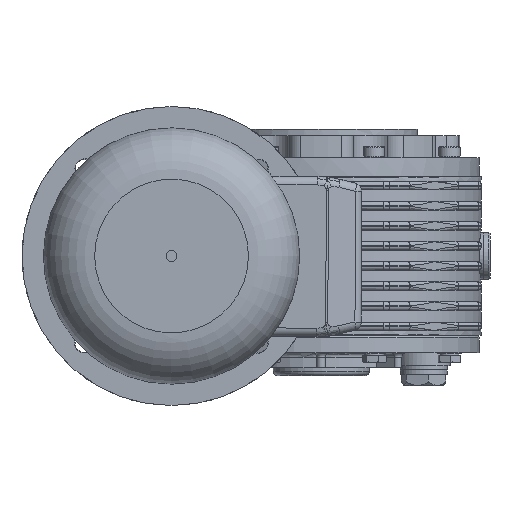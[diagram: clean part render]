
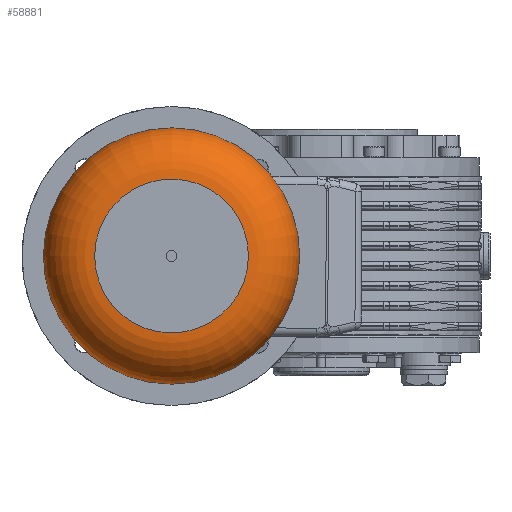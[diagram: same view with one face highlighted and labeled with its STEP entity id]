
A CAD part, left-side view. The second image highlights one B-rep face of the part: STEP entity #58881.
In plain terms, the highlighted toroidal (fillet/blend) face has major radius 36 mm and minor radius 24 mm.
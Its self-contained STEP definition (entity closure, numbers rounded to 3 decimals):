
#58854=CARTESIAN_POINT('',(236.0,0.0,0.0));
#58855=DIRECTION('',(1.0,0.0,0.0));
#58856=DIRECTION('',(0.0,0.0,-1.0));
#58857=AXIS2_PLACEMENT_3D('',#58854,#58855,#58856);
#58858=TOROIDAL_SURFACE('',#58857,36.,24.0);
#58859=CARTESIAN_POINT('',(260.,36.,0.0));
#58860=VERTEX_POINT('',#58859);
#58861=CARTESIAN_POINT('',(260.,0.0,0.0));
#58862=DIRECTION('',(1.0,0.0,0.0));
#58863=DIRECTION('',(0.0,1.0,0.0));
#58864=AXIS2_PLACEMENT_3D('',#58861,#58862,#58863);
#58865=CIRCLE('',#58864,36.);
#58866=EDGE_CURVE('',#58860,#58860,#58865,.T.);
#58867=ORIENTED_EDGE('',*,*,#58866,.F.);
#58868=EDGE_LOOP('',(#58867));
#58869=FACE_OUTER_BOUND('',#58868,.T.);
#58870=CARTESIAN_POINT('',(236.0,60.0,0.0));
#58871=VERTEX_POINT('',#58870);
#58872=CARTESIAN_POINT('',(236.0,0.0,0.0));
#58873=DIRECTION('',(1.0,0.0,0.0));
#58874=DIRECTION('',(0.0,1.0,0.0));
#58875=AXIS2_PLACEMENT_3D('',#58872,#58873,#58874);
#58876=CIRCLE('',#58875,60.0);
#58877=EDGE_CURVE('',#58871,#58871,#58876,.T.);
#58878=ORIENTED_EDGE('',*,*,#58877,.T.);
#58879=EDGE_LOOP('',(#58878));
#58880=FACE_BOUND('',#58879,.T.);
#58881=ADVANCED_FACE('',(#58869,#58880),#58858,.T.);
